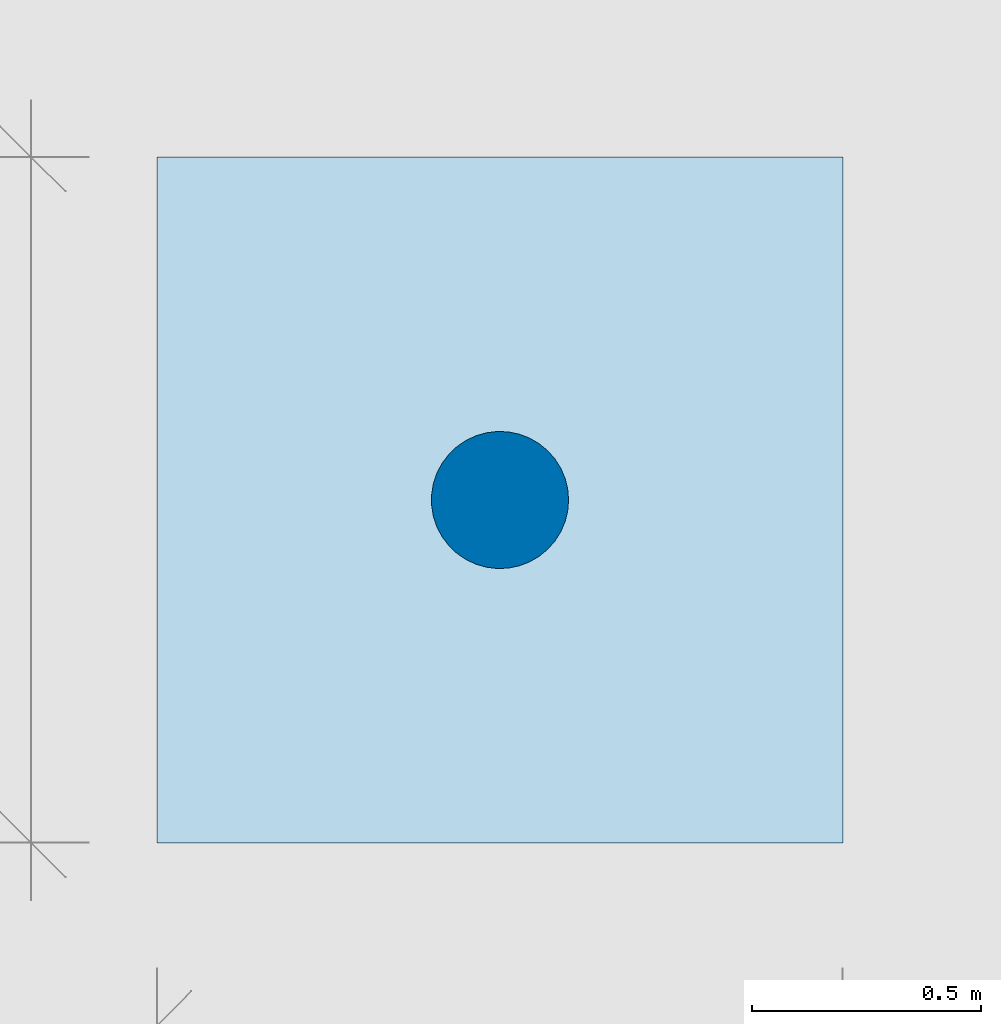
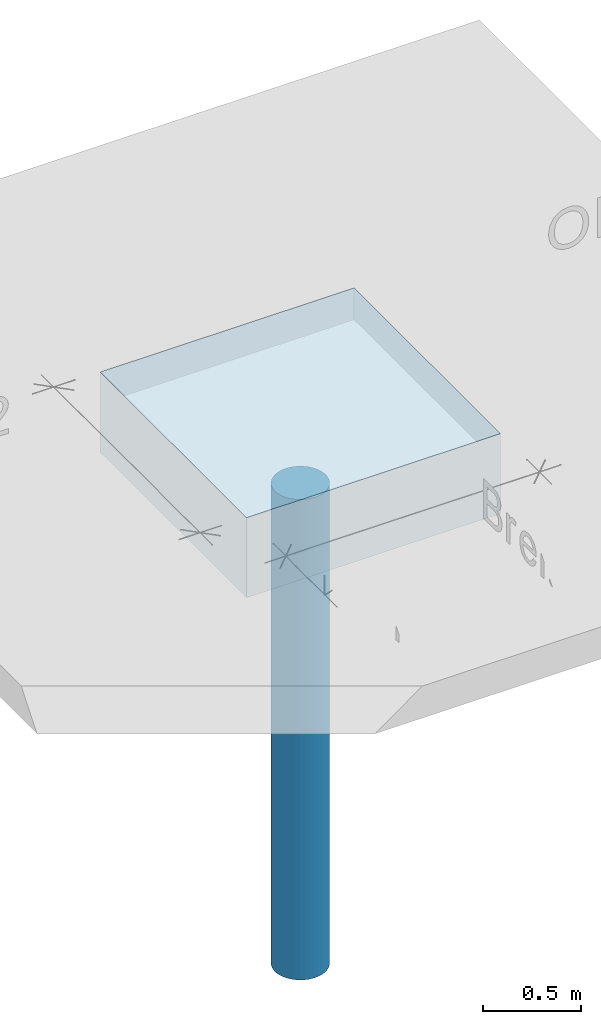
# One storey, part 1 of 3: 1 column, 1 slab.
"""IFC4 building model written with IfcOpenShell, lengths in metres."""

from ifc_helpers import new_model, entity, si_unit, converted_unit, derived_unit, frame, frame_2d, origin, origin_with_axes, place, context, subcontext, project, spatial, rectangle, circle, extrude, material, element, save


model = new_model("IFC4")

# Units and contexts
model_context = context("Model", 3, precision=1e-05, world=origin())
body_context = subcontext(model_context, "Body", "Model", "MODEL_VIEW")
ifc_project = project(units=[si_unit("LENGTHUNIT", "METRE"), si_unit("AREAUNIT", "SQUARE_METRE"), si_unit("VOLUMEUNIT", "CUBIC_METRE"), si_unit("MASSUNIT", "GRAM", prefix="KILO"), converted_unit("PLANEANGLEUNIT", "DEGREE", entity("IfcPlaneAngleMeasure", 0.0174532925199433), si_unit("PLANEANGLEUNIT", "RADIAN"), dimensions=[0, 0, 0, 0, 0, 0, 0]), derived_unit("THERMALTRANSMITTANCEUNIT", [(si_unit("POWERUNIT", "WATT"), 1), (si_unit("THERMODYNAMICTEMPERATUREUNIT", "KELVIN"), -1), (si_unit("LENGTHUNIT", "METRE"), -2)]), derived_unit("VOLUMETRICFLOWRATEUNIT", [(si_unit("LENGTHUNIT", "METRE"), 3), (converted_unit("TIMEUNIT", "hour", entity("IfcTimeMeasure", 3600.0), si_unit("TIMEUNIT", "SECOND"), dimensions=[0, 0, 1, 0, 0, 0, 0]), -1), (si_unit("LENGTHUNIT", "METRE"), -1)])], contexts=[model_context])

# Site, building, storey
site_placement = place(None, origin())
site = spatial("IfcSite", under=ifc_project, at=site_placement, Name="Liegenschaft", CompositionType="ELEMENT")
building_placement = place(site_placement, origin())
building = spatial("IfcBuilding", under=site, at=building_placement, Name="Gebäude", CompositionType="ELEMENT")
storey_placement = place(building_placement, origin())
storey = spatial("IfcBuildingStorey", under=building, at=storey_placement, Name="Geschoss 01", CompositionType="ELEMENT", Elevation=0.0)

# Column
ifc_material_1 = material(Name="C25/30")
column_placement = place(storey_placement, frame((268.667467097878, 1.63633560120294, -3.5)))
element("IfcColumn", 1, at=column_placement, inside=storey, material=ifc_material_1, PredefinedType="COLUMN", context=body_context, shape_type="SweptSolid", body=[
    extrude(circle(Radius=0.15, at=frame_2d((0.15, 0.15), x_axis=(1.0, 0.0))), origin_with_axes(), (0.0, 0.0, 1.0), 3.0),
])

# Slab
ifc_material_2 = material(Name="Gelände")
slab_placement = place(storey_placement, frame((268.067467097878, 1.03633560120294, -0.5)))
element("IfcSlab", 2, at=slab_placement, inside=storey, material=ifc_material_2, PredefinedType="FLOOR", context=body_context, shape_type="SweptSolid", body=[
    extrude(rectangle(XDim=1.5, YDim=1.5, at=frame_2d((0.75, 0.75), x_axis=(1.0, 0.0))), origin_with_axes(), (0.0, 0.0, 1.0), 0.5),
])

save(model, "model.ifc")
